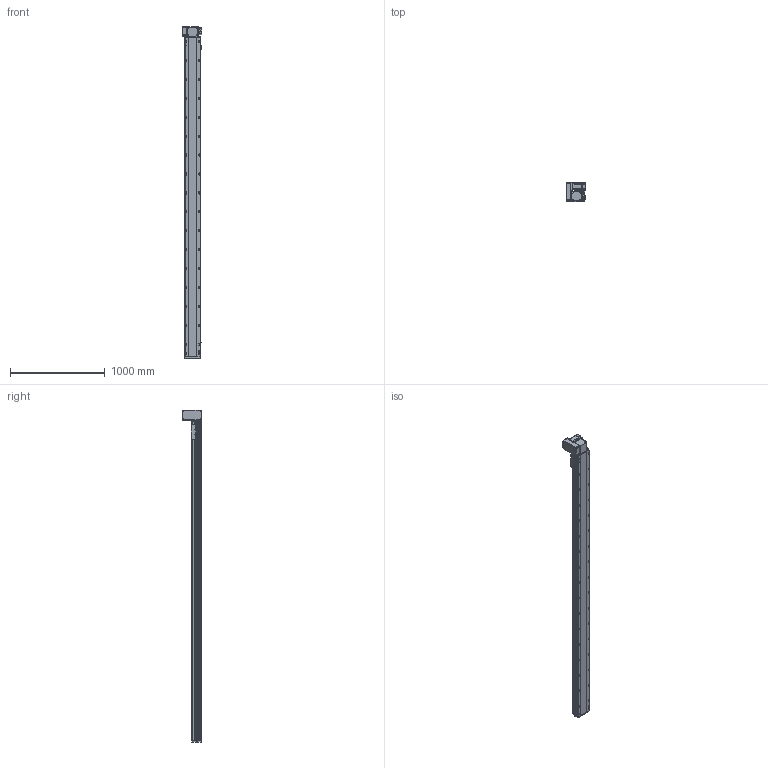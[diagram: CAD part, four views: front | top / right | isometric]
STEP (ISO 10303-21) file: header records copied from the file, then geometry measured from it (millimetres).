
FILE_DESCRIPTION (( 'STEP AP214' ), '1' );
FILE_NAME ('RTB17S-XX-3100-LW-M75-C4.STEP', '2025-12-12T01:20:43', ( '' ), ( '' ), 'SwSTEP 2.0', 'SolidWorks 2018', '' );
FILE_SCHEMA (( 'AUTOMOTIVE_DESIGN' ));
Length unit declared in the file: millimetre
Products named in the file (15): RTB17S-L-007奻裔^RTB17S-XX-XX-LW-M75-C4; RTB17S-L-004-賑釱^RTB17S-賑釱_RTB17S-XX-XX-LW-M75-C4; RTH13-BL-012覜茼え俋离^RTB17S-賑釱_RTB17S-XX-XX-LW-M75-C4; RTB22S-GY-008-M75--萇儂啣^RTB17S-LW-々湍釱蚾饜-750W_RTB17S-XX-XX-LW-M75-C4; RTB22S-GY-018P^RTB17S-LW-々湍釱蚾饜-750W_RTB17S-XX-XX-LW-M75-C4; RTB17S-XX-3100-LW-M75-C4; 750W萇儂^RTB17S-XX-XX-LW-M75-C4; RTB22S-GY-017P^RTB17S-LW-々湍釱蚾饜-750W_RTB17S-XX-XX-LW-M75-C4; RTB17S-L-014-T20-P75--々湍釱^RTB17S-LW-々湍釱蚾饜-750W_RTB17S-XX-XX-LW-M75-C4; RTB22S-GY-005P^RTB17S-LW-々湍釱蚾饜-750W_RTB17S-XX-XX-LW-M75-C4; RTB17S-賑釱^RTB17S-XX-XX-LW-M75-C4; RTB17S-L-001-耜醱啣^RTB17S-XX-XX-LW-M75-C4; RTB17S-LW-々湍釱蚾饜-750W^RTB17S-XX-XX-LW-M75-C4; EE672^RTB17S-XX-XX-LW-M75-C4; RTB17-R-011菁釱^RTB17S-XX-XX-LW-M75-C4
Assembly tree (17 placements, depth 3):
  RTB17S-XX-3100-LW-M75-C4
    RTB17-R-011菁釱^RTB17S-XX-XX-LW-M75-C4
    EE672^RTB17S-XX-XX-LW-M75-C4  x3
    RTB17S-L-001-耜醱啣^RTB17S-XX-XX-LW-M75-C4
    RTB17S-賑釱^RTB17S-XX-XX-LW-M75-C4
      RTB17S-L-004-賑釱^RTB17S-賑釱_RTB17S-XX-XX-LW-M75-C4
      RTH13-BL-012覜茼え俋离^RTB17S-賑釱_RTB17S-XX-XX-LW-M75-C4
    RTB17S-L-007奻裔^RTB17S-XX-XX-LW-M75-C4
    750W萇儂^RTB17S-XX-XX-LW-M75-C4
    RTB17S-LW-々湍釱蚾饜-750W^RTB17S-XX-XX-LW-M75-C4
      RTB17S-L-014-T20-P75--々湍釱^RTB17S-LW-々湍釱蚾饜-750W_RTB17S-XX-XX-LW-M75-C4
      RTB22S-GY-005P^RTB17S-LW-々湍釱蚾饜-750W_RTB17S-XX-XX-LW-M75-C4
      RTB22S-GY-017P^RTB17S-LW-々湍釱蚾饜-750W_RTB17S-XX-XX-LW-M75-C4  x2
      RTB22S-GY-008-M75--萇儂啣^RTB17S-LW-々湍釱蚾饜-750W_RTB17S-XX-XX-LW-M75-C4
      RTB22S-GY-018P^RTB17S-LW-々湍釱蚾饜-750W_RTB17S-XX-XX-LW-M75-C4
Bounding box: 210.4 x 201.5 x 3507.5 mm (x, y, z)
Volume: 25325951.5 mm3; surface area: 4651309.7 mm2
Topology: 17 solids, 17 shells, 2265 faces, 6376 edges, 4130 vertices
Faces by surface type: plane 992, cylinder 857, bspline 294, cone 110, sphere 8, torus 4
Entity records: 66550 total; most frequent: CARTESIAN_POINT 19840, ORIENTED_EDGE 9596, DIRECTION 8852, EDGE_CURVE 4798, AXIS2_PLACEMENT_3D 3150, VERTEX_POINT 3134, VECTOR 2552, LINE 2552
